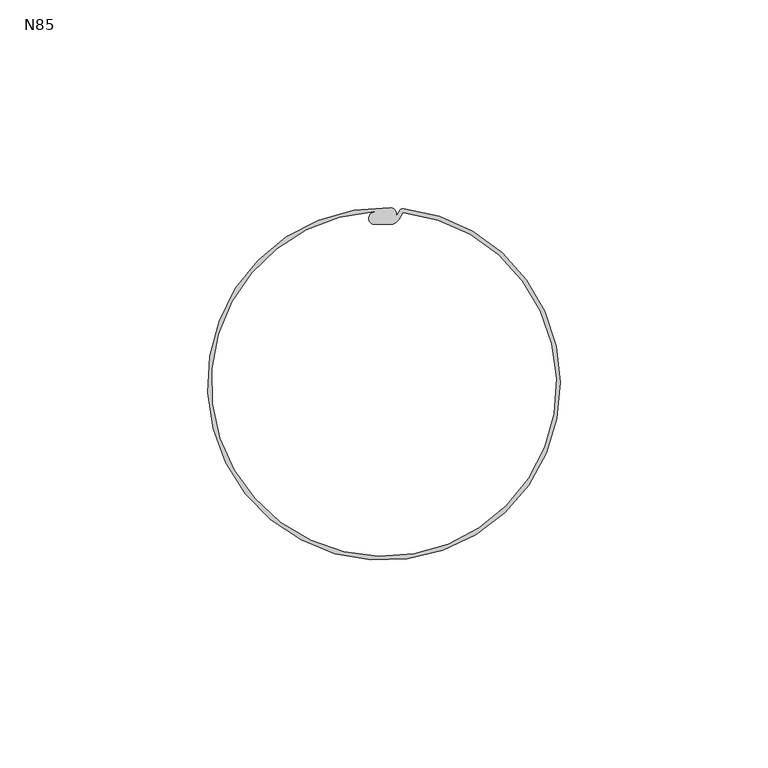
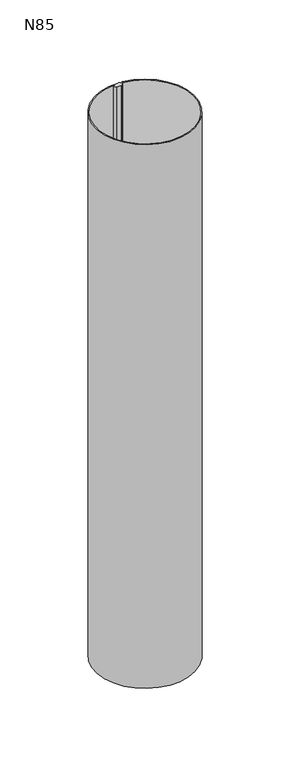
"""IFC4 building model written with IfcOpenShell, lengths in millimetres: proxy geometry, GROVIK_Downpipe_Straight_Vertical : N85."""

from ifc_helpers import new_model, si_unit, frame, origin, origin_with_axes, place, context, project, spatial, polyline, circle_curve, source, transform, mapped, element, save
from ifc_brep_helpers import plane_surface, cylinder_surface, revolved_surface, advanced_brep


def n85_97eff26f(model_context):
    return source(origin(), model_context, "Body", "AdvancedBrep", [
        advanced_brep(
        [(4.7799116, 42.2303498, 0.0), (3.8941646, 41.9052634, 0.0), (2.8, 40.1056788, 0.0), (1.5, 42.4735212, 0.0), (4.6586072, 41.2376937, 0.0), (-2.286461, 41.4369653, 0.0), (-2.2, 38.3056788, 0.0), (1.4, 38.3056788, 0.0), (3.6663266, 39.6056788, 0.0), (4.7799116, 42.2303498, -494.0), (1.5, 42.4735212, -494.0), (2.8, 40.1056788, -494.0), (3.8941646, 41.9052634, -494.0), (4.6586072, 41.2376937, -494.0), (3.6663266, 39.6056788, -494.0), (1.4, 38.3056788, -494.0), (-2.2, 38.3056788, -494.0), (-2.2861899, 41.4320515, -494.0)],
        [
            (0, 1, circle_curve(frame((4.6614631, 41.1838618, 0.0), z_axis=(0.0, 0.0, 1.0), x_axis=(1.0, 0.0, 0.0)), 1.0531701)),
            (1, 2),
            (2, 3, circle_curve(frame((1.4323114, 40.8955724, 0.0), z_axis=(0.0, 0.0, 1.0), x_axis=(1.0, 0.0, 0.0)), 1.5793999)),
            (3, 0, circle_curve(origin_with_axes(), 42.5)),
            (4, 5, circle_curve(frame((0.0, 0.0, 0.0), z_axis=(0.0, 0.0, -1.0), x_axis=(1.0, 0.0, 0.0)), 41.5)),
            (5, 6, circle_curve(frame((-2.2, 39.8700532, 0.0), z_axis=(0.0, 0.0, 1.0), x_axis=(1.0, 0.0, 0.0)), 1.5643744)),
            (6, 7),
            (7, 8, circle_curve(frame((1.3537816, 41.0117282, 0.0), z_axis=(0.0, 0.0, 1.0), x_axis=(1.0, 0.0, 0.0)), 2.7064441)),
            (8, 4),
            (9, 10, circle_curve(frame((0.0, 0.0, -494.0), z_axis=(0.0, 0.0, -1.0), x_axis=(1.0, 0.0, 0.0)), 42.5)),
            (10, 11, circle_curve(frame((1.4323114, 40.8955724, -494.0), z_axis=(0.0, 0.0, -1.0), x_axis=(1.0, 0.0, 0.0)), 1.5793999)),
            (11, 12),
            (12, 9, circle_curve(frame((4.6614631, 41.1838618, -494.0), z_axis=(0.0, 0.0, -1.0), x_axis=(1.0, 0.0, 0.0)), 1.0531701)),
            (13, 14),
            (14, 15, circle_curve(frame((1.3537816, 41.0117282, -494.0), z_axis=(0.0, 0.0, -1.0), x_axis=(1.0, 0.0, 0.0)), 2.7064441)),
            (15, 16),
            (16, 17, circle_curve(frame((-2.2, 39.8700532, -494.0), z_axis=(0.0, 0.0, -1.0), x_axis=(1.0, 0.0, 0.0)), 1.5643744)),
            (17, 13, circle_curve(frame((0.0, 0.0, -494.0), z_axis=(0.0, 0.0, 1.0), x_axis=(1.0, 0.0, 0.0)), 41.5)),
            (4, 13),
            (17, 5),
            (16, 6),
            (15, 7),
            (14, 8),
            (0, 9),
            (12, 1),
            (11, 2),
            (10, 3),
        ],
        [
            plane_surface(frame((0.0, 0.0, 0.0), z_axis=(0.0, 0.0, 1.0), x_axis=(0.0, -1.0, 0.0))),
            plane_surface(frame((0.0, 0.0, -494.0), z_axis=(0.0, 0.0, -1.0), x_axis=(0.0, -1.0, 0.0))),
            revolved_surface(polyline([(41.5, 0.0, -494.0), (41.5, 0.0, 0.0)]), (0.0, 0.0, 0.0), (0.0, 0.0, -1.0)),
            cylinder_surface(frame((-2.2, 39.8700532, 0.0), z_axis=(0.0, 0.0, 1.0), x_axis=(1.0, 0.0, 0.0)), 1.5643744),
            plane_surface(frame((-2.2, 38.3056788, 0.0), z_axis=(0.0, -1.0, 0.0), x_axis=(0.0, 0.0, -1.0))),
            cylinder_surface(frame((1.3537816, 41.0117282, 0.0), z_axis=(0.0, 0.0, 1.0), x_axis=(1.0, 0.0, 0.0)), 2.7064441),
            plane_surface(frame((3.6663266, 39.6056788, 0.0), z_axis=(0.8544588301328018, -0.5195191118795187, 0.0), x_axis=(0.0, 0.0, -1.0))),
            cylinder_surface(frame((4.6614631, 41.1838618, 0.0), z_axis=(0.0, 0.0, 1.0), x_axis=(1.0, 0.0, 0.0)), 1.0531701),
            plane_surface(frame((3.8941646, 41.9052634, 0.0), z_axis=(-0.8544588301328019, 0.5195191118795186, 0.0), x_axis=(0.0, 0.0, -1.0))),
            cylinder_surface(frame((1.4323114, 40.8955724, 0.0), z_axis=(0.0, 0.0, 1.0), x_axis=(1.0, 0.0, 0.0)), 1.5793999),
            cylinder_surface(origin_with_axes(), 42.5),
        ],
        [
            (0, [[1, 2, 3, 4], [5, 6, 7, 8, 9]]),
            (1, [[10, 11, 12, 13], [14, 15, 16, 17, 18]]),
            (2, [[-5, 19, -18, 20]]),
            (3, [[-6, -20, -17, 21]]),
            (4, [[-7, -21, -16, 22]]),
            (5, [[-8, -22, -15, 23]]),
            (6, [[-9, -23, -14, -19]]),
            (7, [[-1, 24, -13, 25]]),
            (8, [[-2, -25, -12, 26]]),
            (9, [[-3, -26, -11, 27]]),
            (10, [[-4, -27, -10, -24]]),
        ],
    ),
    ])


if __name__ == "__main__":
    model = new_model("IFC4")
    model_context = context("Model", 3, world=origin())
    ifc_project = project(units=[si_unit("LENGTHUNIT", "METRE", prefix="MILLI")], contexts=[model_context])
    site = spatial("IfcSite", under=ifc_project)
    building = spatial("IfcBuilding", under=site)
    placement = place(None, origin())
    n85_shape = n85_97eff26f(model_context)
    element("IfcBuildingElementProxy", 1, Name="GROVIK_Downpipe_Straight_Vertical : N85", ObjectType="GROVIK_Downpipe_Straight_Vertical : N85", at=placement, inside=building, context=model_context, shape_type="MappedRepresentation", body=[
        mapped(n85_shape, transform((0.0, 0.0, 0.0), x_axis=(1.0, 0.0, 0.0), y_axis=(0.0, 1.0, 0.0), z_axis=(0.0, 0.0, 1.0))),
    ])
    save(model, "model.ifc")
